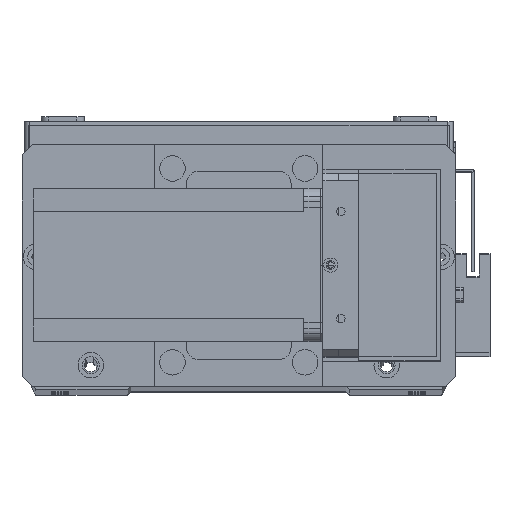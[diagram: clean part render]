
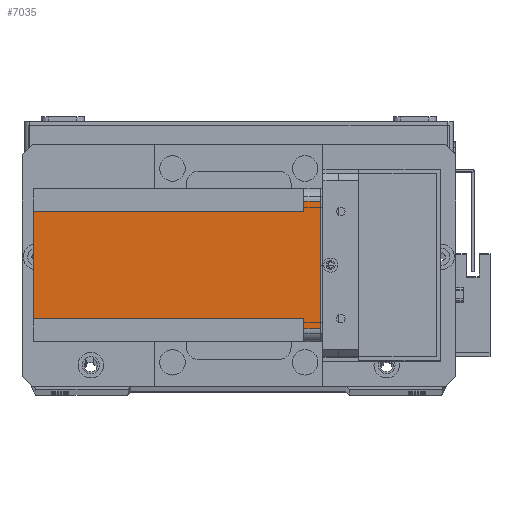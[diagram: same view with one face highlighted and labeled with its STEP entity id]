
A CAD part, top view. The second image highlights one B-rep face of the part: STEP entity #7035.
In plain terms, the highlighted planar face has unit normal (0, 0, 1) as drawn and (-1, 0, 0) by its records, which use the part's own axes.
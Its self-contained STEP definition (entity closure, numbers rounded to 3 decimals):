
#29 = CARTESIAN_POINT ( 'NONE',  ( 0., 51., -112.5 ) ) ;
#317 = CARTESIAN_POINT ( 'NONE',  ( 0., 9., -6.5 ) ) ;
#392 = CARTESIAN_POINT ( 'NONE',  ( 0., 55., 0. ) ) ;
#489 = VERTEX_POINT ( 'NONE', #7230 ) ;
#625 = DIRECTION ( 'NONE',  ( 0., 0., 1. ) ) ;
#968 = LINE ( 'NONE', #25563, #19566 ) ;
#1412 = DIRECTION ( 'NONE',  ( 0., 0., -1. ) ) ;
#1476 = CARTESIAN_POINT ( 'NONE',  ( 0., 55., -112.5 ) ) ;
#1713 = CARTESIAN_POINT ( 'NONE',  ( 0., 60., -6.5 ) ) ;
#1753 = DIRECTION ( 'NONE',  ( 0., 1., 0. ) ) ;
#2049 = CARTESIAN_POINT ( 'NONE',  ( 0., 9., -112.5 ) ) ;
#2551 = DIRECTION ( 'NONE',  ( 0., -1., 0. ) ) ;
#2588 = DIRECTION ( 'NONE',  ( -1., 0., 0. ) ) ;
#2733 = CARTESIAN_POINT ( 'NONE',  ( 0., 0., -112.5 ) ) ;
#3053 = PLANE ( 'NONE',  #6875 ) ;
#3233 = LINE ( 'NONE', #29, #9804 ) ;
#4615 = DIRECTION ( 'NONE',  ( 0., 0., 1. ) ) ;
#4984 = CARTESIAN_POINT ( 'NONE',  ( 0., 5., -112.5 ) ) ;
#6242 = CARTESIAN_POINT ( 'NONE',  ( 0., 5., 0. ) ) ;
#6659 = VERTEX_POINT ( 'NONE', #8499 ) ;
#6875 = AXIS2_PLACEMENT_3D ( 'NONE', #2733, #2588, #2551 ) ;
#7035 = ADVANCED_FACE ( 'NONE', ( #20909 ), #3053, .T. ) ;
#7230 = CARTESIAN_POINT ( 'NONE',  ( 0., 55., -6.5 ) ) ;
#8490 = VERTEX_POINT ( 'NONE', #13221 ) ;
#8499 = CARTESIAN_POINT ( 'NONE',  ( 0., 51., -112.5 ) ) ;
#8596 = CARTESIAN_POINT ( 'NONE',  ( 0., 0., -6.5 ) ) ;
#8737 = DIRECTION ( 'NONE',  ( 0., 1., 0. ) ) ;
#9804 = VECTOR ( 'NONE', #625, 1000. ) ;
#11347 = LINE ( 'NONE', #1476, #17681 ) ;
#11432 = EDGE_CURVE ( 'NONE', #26974, #25713, #21966, .T. ) ;
#11654 = EDGE_CURVE ( 'NONE', #30941, #13709, #15083, .T. ) ;
#11754 = EDGE_CURVE ( 'NONE', #30941, #25713, #25833, .T. ) ;
#11836 = EDGE_CURVE ( 'NONE', #26974, #489, #11347, .T. ) ;
#11842 = EDGE_CURVE ( 'NONE', #8490, #489, #23570, .T. ) ;
#11877 = EDGE_CURVE ( 'NONE', #6659, #8490, #3233, .T. ) ;
#11975 = EDGE_CURVE ( 'NONE', #6659, #18291, #968, .T. ) ;
#12026 = EDGE_CURVE ( 'NONE', #13709, #18291, #12450, .T. ) ;
#12134 = EDGE_LOOP ( 'NONE', ( #20537, #21519, #24079, #24337, #25718, #25747, #26481, #28376 ) ) ;
#12450 = LINE ( 'NONE', #19650, #30997 ) ;
#13221 = CARTESIAN_POINT ( 'NONE',  ( 0., 51., -6.5 ) ) ;
#13709 = VERTEX_POINT ( 'NONE', #317 ) ;
#15083 = LINE ( 'NONE', #8596, #15860 ) ;
#15860 = VECTOR ( 'NONE', #8737, 1000. ) ;
#17681 = VECTOR ( 'NONE', #1412, 1000. ) ;
#18291 = VERTEX_POINT ( 'NONE', #2049 ) ;
#18951 = DIRECTION ( 'NONE',  ( 0., -1., 0. ) ) ;
#19155 = CARTESIAN_POINT ( 'NONE',  ( 0., 0., 0. ) ) ;
#19406 = DIRECTION ( 'NONE',  ( 0., 0., -1. ) ) ;
#19566 = VECTOR ( 'NONE', #23290, 1000. ) ;
#19650 = CARTESIAN_POINT ( 'NONE',  ( 0., 9., -112.5 ) ) ;
#20537 = ORIENTED_EDGE ( 'NONE', *, *, #11654, .F. ) ;
#20909 = FACE_OUTER_BOUND ( 'NONE', #12134, .T. ) ;
#21519 = ORIENTED_EDGE ( 'NONE', *, *, #11754, .T. ) ;
#21966 = LINE ( 'NONE', #19155, #27742 ) ;
#23290 = DIRECTION ( 'NONE',  ( 0., -1., 0. ) ) ;
#23570 = LINE ( 'NONE', #1713, #29180 ) ;
#24079 = ORIENTED_EDGE ( 'NONE', *, *, #11432, .F. ) ;
#24337 = ORIENTED_EDGE ( 'NONE', *, *, #11836, .T. ) ;
#25066 = VECTOR ( 'NONE', #4615, 1000. ) ;
#25563 = CARTESIAN_POINT ( 'NONE',  ( 0., 0., -112.5 ) ) ;
#25713 = VERTEX_POINT ( 'NONE', #6242 ) ;
#25718 = ORIENTED_EDGE ( 'NONE', *, *, #11842, .F. ) ;
#25747 = ORIENTED_EDGE ( 'NONE', *, *, #11877, .F. ) ;
#25833 = LINE ( 'NONE', #4984, #25066 ) ;
#26481 = ORIENTED_EDGE ( 'NONE', *, *, #11975, .T. ) ;
#26974 = VERTEX_POINT ( 'NONE', #392 ) ;
#27742 = VECTOR ( 'NONE', #18951, 1000. ) ;
#28376 = ORIENTED_EDGE ( 'NONE', *, *, #12026, .F. ) ;
#29180 = VECTOR ( 'NONE', #1753, 1000. ) ;
#30212 = CARTESIAN_POINT ( 'NONE',  ( 0., 5., -6.5 ) ) ;
#30941 = VERTEX_POINT ( 'NONE', #30212 ) ;
#30997 = VECTOR ( 'NONE', #19406, 1000. ) ;
